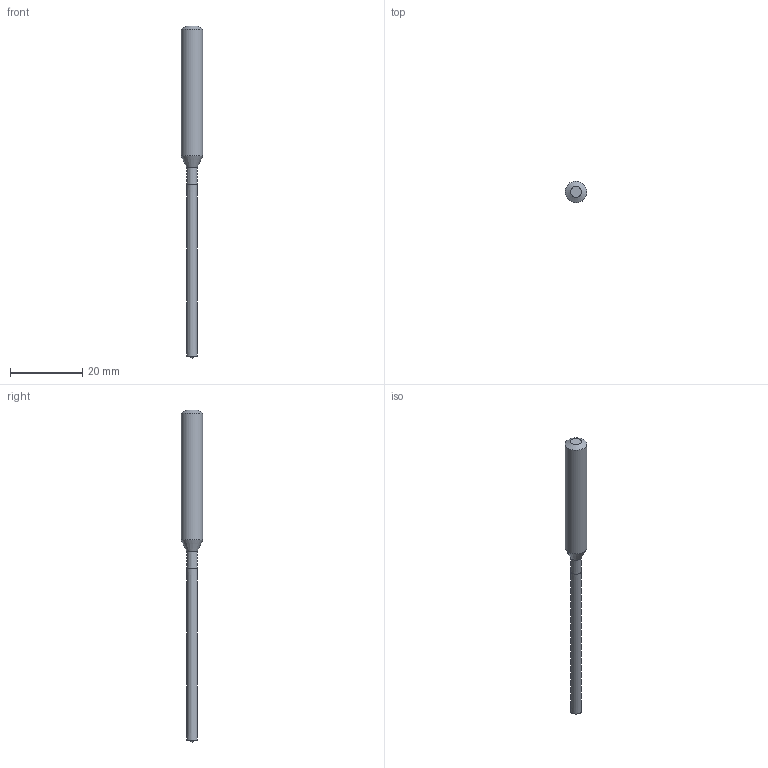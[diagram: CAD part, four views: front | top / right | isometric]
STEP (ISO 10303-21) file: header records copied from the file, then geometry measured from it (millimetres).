
FILE_DESCRIPTION(/* description */ (''),/* implementation_level */ '2;1');
FILE_NAME(/* name */ 'CAD_6618747_MOD_003_003_FR.stp',/* time_stamp */ '2014-06-14T09:49:59+02:00',/* author */ ('VR - Julian Pauli'),/* organization */ ('Walter AG'),/* preprocessor_version */ 'ST-DEVELOPER v11',/* originating_system */ 'SIEMENS UGS NX 6.0',/* authorisation */ '');
FILE_SCHEMA (('AUTOMOTIVE_DESIGN { 1 0 10303 214 1 1 1 1 }'));
Length unit declared in the file: millimetre
Products named in the file (1): DC150-6618747_simple
Bounding box: 5.98 x 5.98 x 92 mm (x, y, z)
Volume: 1431 mm3; surface area: 1257.8 mm2
Topology: 2 solids, 2 shells, 9 faces, 18 edges, 14 vertices
Faces by surface type: cone 5, plane 3, cylinder 1
Full cylindrical faces by diameter (mm): 6 x1
Entity records: 216 total; most frequent: DIRECTION 36, CARTESIAN_POINT 27, AXIS2_PLACEMENT_3D 17, EDGE_LOOP 14, ORIENTED_EDGE 14, FACE_BOUND 12, ADVANCED_FACE 9, VERTEX_POINT 8
